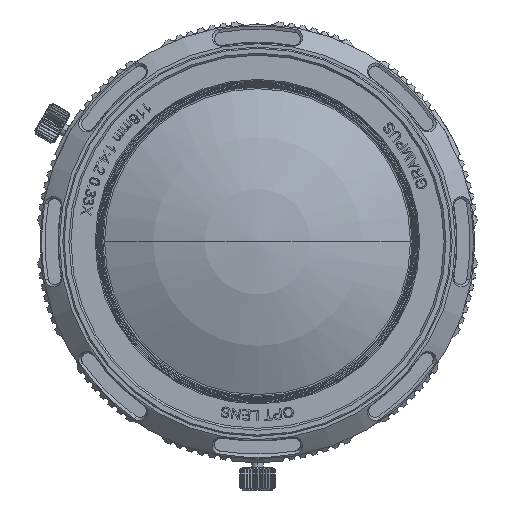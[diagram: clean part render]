
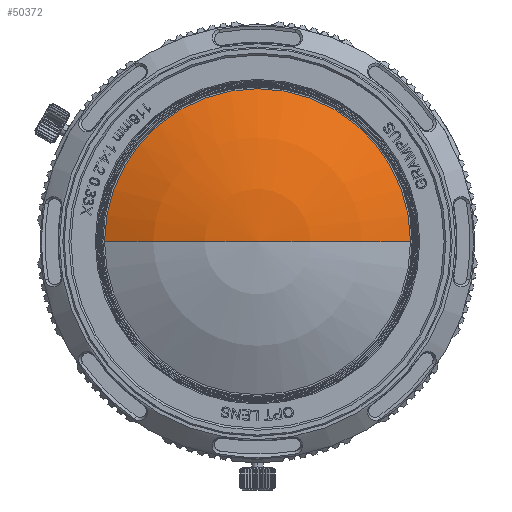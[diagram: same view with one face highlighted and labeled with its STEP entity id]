
A CAD part, left-side view. The second image highlights one B-rep face of the part: STEP entity #50372.
In plain terms, the highlighted spherical face has radius 50.762 mm.
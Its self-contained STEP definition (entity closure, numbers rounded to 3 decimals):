
#15071=CARTESIAN_POINT('',(-37.317,0.,0.));
#15072=DIRECTION('',(1.,0.,0.));
#15073=DIRECTION('',(0.,1.,0.));
#15074=AXIS2_PLACEMENT_3D('',#15071,#15072,#15073);
#15081=CARTESIAN_POINT('',(7.643,0.,0.));
#15082=DIRECTION('',(0.,0.,1.));
#15083=DIRECTION('',(-0.886,0.464,0.));
#15084=AXIS2_PLACEMENT_3D('',#15081,#15082,#15083);
#15086=CARTESIAN_POINT('',(7.643,0.,0.));
#15087=DIRECTION('',(0.,0.,-1.));
#15088=DIRECTION('',(-0.886,-0.464,0.));
#15089=AXIS2_PLACEMENT_3D('',#15086,#15087,#15088);
#32975=CARTESIAN_POINT('',(-37.317,23.566,0.));
#32976=CARTESIAN_POINT('',(-37.317,-23.566,0.));
#32977=VERTEX_POINT('',#32975);
#32978=VERTEX_POINT('',#32976);
#32979=CARTESIAN_POINT('',(-43.119,0.,0.));
#32980=VERTEX_POINT('',#32979);
#50360=CARTESIAN_POINT('',(7.643,0.,0.));
#50361=DIRECTION('',(1.,0.,0.));
#50362=DIRECTION('',(0.,-1.,0.));
#50363=AXIS2_PLACEMENT_3D('',#50360,#50361,#50362);
#50364=SPHERICAL_SURFACE('',#50363,50.762);
#50365=ORIENTED_EDGE('',*,*,#50353,.T.);
#50367=ORIENTED_EDGE('',*,*,#50366,.T.);
#50369=ORIENTED_EDGE('',*,*,#50368,.F.);
#50370=EDGE_LOOP('',(#50365,#50367,#50369));
#50371=FACE_OUTER_BOUND('',#50370,.F.);
#15075=CIRCLE('',#15074,23.566);
#15085=CIRCLE('',#15084,50.762);
#15090=CIRCLE('',#15089,50.762);
#50353=EDGE_CURVE('',#32977,#32978,#15075,.T.);
#50366=EDGE_CURVE('',#32978,#32980,#15090,.T.);
#50368=EDGE_CURVE('',#32977,#32980,#15085,.T.);
#50372=ADVANCED_FACE('',(#50371),#50364,.T.);
